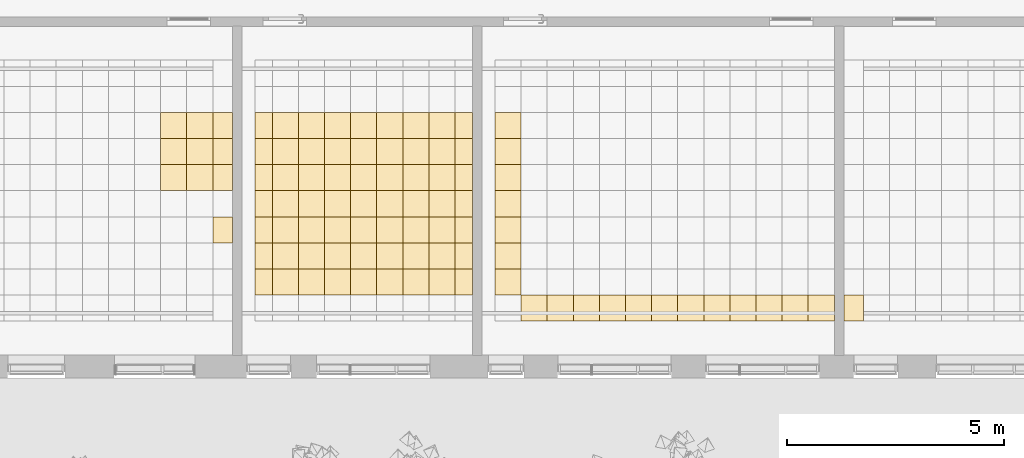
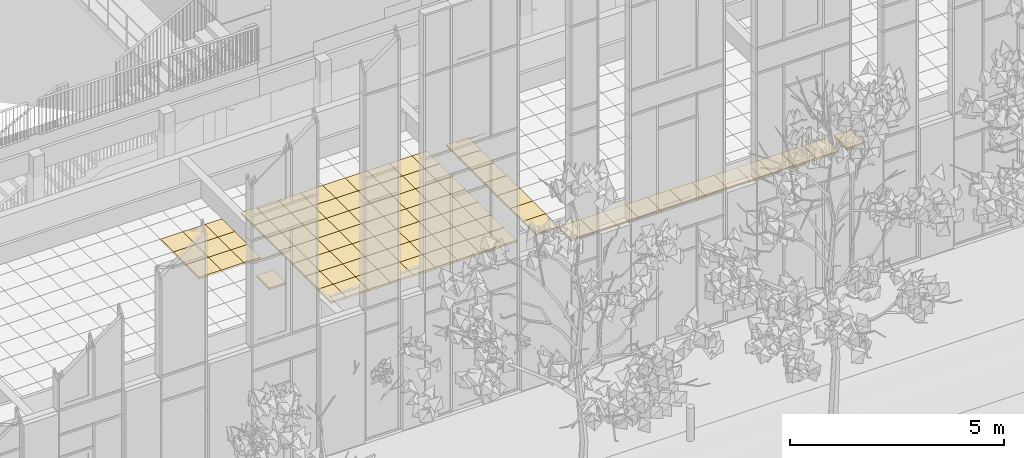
# One storey, part 192 of 246: 93 coverings.
"""IFC2X3 building model written with IfcOpenShell, lengths in millimetres."""

from ifc_helpers import new_model, entity, si_unit, converted_unit, derived_unit, money_unit, direction, frame, origin_with_axes, place, context, subcontext, project, spatial, faceted_brep, material, material_list, type_object, element, save


model = new_model("IFC2X3")

# Units and contexts
model_context = context("Model", 3, precision=0.01, world=origin_with_axes(), true_north=direction((0.0, 1.0)))
body_context = subcontext(model_context, "Body", "Model", "MODEL_VIEW")
ifc_project = project(units=[si_unit("LENGTHUNIT", "METRE", prefix="MILLI"), si_unit("AREAUNIT", "SQUARE_METRE"), si_unit("VOLUMEUNIT", "CUBIC_METRE"), converted_unit("PLANEANGLEUNIT", "DEGREE", entity("IfcPlaneAngleMeasure", 0.0174532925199), si_unit("PLANEANGLEUNIT", "RADIAN"), dimensions=[0, 0, 0, 0, 0, 0, 0]), si_unit("SOLIDANGLEUNIT", "STERADIAN"), money_unit("EUR"), converted_unit("TIMEUNIT", "Year", entity("IfcTimeMeasure", 31556926.0), si_unit("TIMEUNIT", "SECOND"), dimensions=[0, 0, 1, 0, 0, 0, 0]), si_unit("MASSUNIT", "GRAM", prefix="KILO"), si_unit("THERMODYNAMICTEMPERATUREUNIT", "DEGREE_CELSIUS"), si_unit("LUMINOUSINTENSITYUNIT", "LUMEN"), si_unit("ENERGYUNIT", "JOULE", prefix="MEGA"), derived_unit("THERMALCONDUCTANCEUNIT", [(si_unit("POWERUNIT", "WATT"), 1), (si_unit("LENGTHUNIT", "METRE"), -1), (si_unit("THERMODYNAMICTEMPERATUREUNIT", "KELVIN"), -1)]), derived_unit("SPECIFICHEATCAPACITYUNIT", [(si_unit("ENERGYUNIT", "JOULE"), 1), (si_unit("MASSUNIT", "GRAM", prefix="KILO"), -1), (si_unit("THERMODYNAMICTEMPERATUREUNIT", "KELVIN"), -1)]), derived_unit("MASSDENSITYUNIT", [(si_unit("MASSUNIT", "GRAM", prefix="KILO"), 1), (si_unit("VOLUMEUNIT", "CUBIC_METRE"), -1)])], contexts=[model_context])

# Site, building, storey
site_placement = place(None, origin_with_axes())
site = spatial("IfcSite", under=ifc_project, at=site_placement, Name="L.Koidula tn 11b", CompositionType="ELEMENT")
building_placement = place(site_placement, origin_with_axes())
building = spatial("IfcBuilding", under=site, at=building_placement, Name="Rakvere Riigigümnaasium", CompositionType="ELEMENT")
storey_placement = place(building_placement, origin_with_axes())
storey = spatial("IfcBuildingStorey", under=building, at=storey_placement, Name="1.korrus 0,00", CompositionType="ELEMENT", Elevation=0.0)

# Coverings
ifc_material_1 = material(Name="Karkass")
ifc_material_2 = material(Name="Kipsplaat")
ifc_material_list = material_list([ifc_material_1, ifc_material_2])
covering_type = type_object("IfcCoveringType", Name="SA-LV-Kips-moodul 55", PredefinedType="CEILING")
for number, where, z_axis, x_axis, name in (
    (1, (59159.6752046, 10490.4535941, 2750.0), (0.0, 0.0, 1.0), (1.0, 0.0, 0.0), "L-03"),
    (2, (59159.6752046, 9890.45359412, 2750.0), (0.0, 0.0, 1.0), (1.0, 0.0, 0.0), "L-03"),
    (3, (59159.6752046, 9290.45359412, 2750.0), (0.0, 0.0, 1.0), (1.0, 0.0, 0.0), "L-03"),
):
    element("IfcCovering", number, at=place(storey_placement, frame(where, z_axis=z_axis, x_axis=x_axis)), inside=storey, type_object=covering_type, material=ifc_material_list, Name=name, PredefinedType="CEILING", context=body_context, shape_type="Brep", body=[
        faceted_brep([(599.999948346, 0.0, 12.5), (599.999948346, 0.0, 54.5), (0.0, 0.0, 54.5), (0.0, 0.0, 12.5), (599.999948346, 600.0, 12.5), (599.999948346, 600.0, 54.5), (0.0, 600.0, 54.5), (0.0, 600.0, 12.5)], [[[0, 1, 2, 3]], [[4, 5, 1, 0]], [[2, 1, 5, 6]], [[3, 2, 6, 7]], [[3, 7, 4, 0]], [[7, 6, 5, 4]]]),
        faceted_brep([(0.0, 0.0, 0.0), (599.999948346, 0.0, 0.0), (599.999948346, 0.0, 12.5), (0.0, 0.0, 12.5), (0.0, 600.0, 0.0), (599.999948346, 600.0, 0.0), (599.999948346, 600.0, 12.5), (0.0, 600.0, 12.5)], [[[0, 1, 2, 3]], [[0, 4, 5, 1]], [[1, 5, 6, 2]], [[3, 2, 6, 7]], [[4, 0, 3, 7]], [[5, 4, 7, 6]]]),
    ])
for number, where, z_axis, x_axis, name in (
    (4, (60359.6751529, 10490.4535941, 2750.0), (0.0, 0.0, 1.0), (1.0, 0.0, 0.0), "L-03"),
    (5, (60359.6751529, 9890.45359412, 2750.0), (0.0, 0.0, 1.0), (1.0, 0.0, 0.0), "L-03"),
    (6, (60359.6751529, 9290.45359412, 2750.0), (0.0, 0.0, 1.0), (1.0, 0.0, 0.0), "L-03"),
    (7, (60359.6751529, 8090.45359412, 2750.0), (0.0, 0.0, 1.0), (1.0, 0.0, 0.0), "L-03"),
):
    element("IfcCovering", number, at=place(storey_placement, frame(where, z_axis=z_axis, x_axis=x_axis)), inside=storey, type_object=covering_type, material=ifc_material_list, Name=name, PredefinedType="CEILING", context=body_context, shape_type="Brep", body=[
        faceted_brep([(450.341138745, 0.0, 12.5), (450.341138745, 0.0, 54.5), (0.0, 0.0, 54.5), (0.0, 0.0, 12.5), (450.341138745, 600.0, 12.5), (450.341138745, 600.0, 54.5), (0.0, 600.0, 54.5), (0.0, 600.0, 12.5)], [[[0, 1, 2, 3]], [[4, 5, 1, 0]], [[2, 1, 5, 6]], [[3, 2, 6, 7]], [[3, 7, 4, 0]], [[7, 6, 5, 4]]]),
        faceted_brep([(0.0, 0.0, 0.0), (450.341138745, 0.0, 0.0), (450.341138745, 0.0, 12.5), (0.0, 0.0, 12.5), (0.0, 600.0, 0.0), (450.341138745, 600.0, 0.0), (450.341138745, 600.0, 12.5), (0.0, 600.0, 12.5)], [[[0, 1, 2, 3]], [[0, 4, 5, 1]], [[1, 5, 6, 2]], [[3, 2, 6, 7]], [[4, 0, 3, 7]], [[5, 4, 7, 6]]]),
    ])
for number, where, z_axis, x_axis, name in (
    (8, (59759.6751529, 9290.45359412, 2750.0), (0.0, 0.0, 1.0), (1.0, 0.0, 0.0), "L-03"),
    (9, (59759.6751529, 9890.45359412, 2750.0), (0.0, 0.0, 1.0), (1.0, 0.0, 0.0), "L-03"),
    (10, (59759.6751529, 10490.4535941, 2750.0), (0.0, 0.0, 1.0), (1.0, 0.0, 0.0), "L-03"),
):
    element("IfcCovering", number, at=place(storey_placement, frame(where, z_axis=z_axis, x_axis=x_axis)), inside=storey, type_object=covering_type, material=ifc_material_list, Name=name, PredefinedType="CEILING", context=body_context, shape_type="Brep", body=[
        faceted_brep([(600.0, 0.0, 12.5), (600.0, 0.0, 54.5), (0.0, 0.0, 54.5), (0.0, 0.0, 12.5), (600.0, 600.0, 12.5), (600.0, 600.0, 54.5), (0.0, 600.0, 54.5), (0.0, 600.0, 12.5)], [[[0, 1, 2, 3]], [[4, 5, 1, 0]], [[2, 1, 5, 6]], [[3, 2, 6, 7]], [[3, 7, 4, 0]], [[7, 6, 5, 4]]]),
        faceted_brep([(0.0, 0.0, 0.0), (600.0, 0.0, 0.0), (600.0, 0.0, 12.5), (0.0, 0.0, 12.5), (0.0, 600.0, 0.0), (600.0, 600.0, 0.0), (600.0, 600.0, 12.5), (0.0, 600.0, 12.5)], [[[0, 1, 2, 3]], [[0, 4, 5, 1]], [[1, 5, 6, 2]], [[3, 2, 6, 7]], [[4, 0, 3, 7]], [[5, 4, 7, 6]]]),
    ])
for number, where, z_axis, x_axis, name in (
    (11, (61729.718917, 10490.4535941, 2750.0), (0.0, 0.0, 1.0), (1.0, 0.0, 0.0), "L-03"),
    (12, (61729.718917, 9890.45359412, 2750.0), (0.0, 0.0, 1.0), (1.0, 0.0, 0.0), "L-03"),
    (13, (61729.718917, 9290.45359412, 2750.0), (0.0, 0.0, 1.0), (1.0, 0.0, 0.0), "L-03"),
    (14, (61729.718917, 8690.45359412, 2750.0), (0.0, 0.0, 1.0), (1.0, 0.0, 0.0), "L-03"),
    (15, (61729.718917, 8090.45359412, 2750.0), (0.0, 0.0, 1.0), (1.0, 0.0, 0.0), "L-03"),
    (16, (61729.718917, 7490.45359412, 2750.0), (0.0, 0.0, 1.0), (1.0, 0.0, 0.0), "L-03"),
    (17, (61729.718917, 6890.45359412, 2750.0), (0.0, 0.0, 1.0), (1.0, 0.0, 0.0), "L-03"),
):
    element("IfcCovering", number, at=place(storey_placement, frame(where, z_axis=z_axis, x_axis=x_axis)), inside=storey, type_object=covering_type, material=ifc_material_list, Name=name, PredefinedType="CEILING", context=body_context, shape_type="Brep", body=[
        faceted_brep([(599.999948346, 0.0, 12.5), (599.999948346, 0.0, 54.5), (0.0, 0.0, 54.5), (0.0, 0.0, 12.5), (599.999948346, 600.0, 12.5), (599.999948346, 600.0, 54.5), (0.0, 600.0, 54.5), (0.0, 600.0, 12.5)], [[[0, 1, 2, 3]], [[4, 5, 1, 0]], [[2, 1, 5, 6]], [[3, 2, 6, 7]], [[3, 7, 4, 0]], [[7, 6, 5, 4]]]),
        faceted_brep([(0.0, 0.0, 0.0), (599.999948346, 0.0, 0.0), (599.999948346, 0.0, 12.5), (0.0, 0.0, 12.5), (0.0, 600.0, 0.0), (599.999948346, 600.0, 0.0), (599.999948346, 600.0, 12.5), (0.0, 600.0, 12.5)], [[[0, 1, 2, 3]], [[0, 4, 5, 1]], [[1, 5, 6, 2]], [[3, 2, 6, 7]], [[4, 0, 3, 7]], [[5, 4, 7, 6]]]),
    ])
for number, where, z_axis, x_axis, name in (
    (18, (61329.7177494, 7490.45359412, 2750.0), (0.0, 0.0, 1.0), (1.0, 0.0, 0.0), "L-03"),
    (19, (61329.7177494, 8090.45359412, 2750.0), (0.0, 0.0, 1.0), (1.0, 0.0, 0.0), "L-03"),
    (20, (61329.7177494, 8690.45359412, 2750.0), (0.0, 0.0, 1.0), (1.0, 0.0, 0.0), "L-03"),
    (21, (61329.7177494, 9290.45359412, 2750.0), (0.0, 0.0, 1.0), (1.0, 0.0, 0.0), "L-03"),
    (22, (61329.7177494, 9890.45359412, 2750.0), (0.0, 0.0, 1.0), (1.0, 0.0, 0.0), "L-03"),
    (23, (61329.7177494, 10490.4535941, 2750.0), (0.0, 0.0, 1.0), (1.0, 0.0, 0.0), "L-03"),
    (24, (61329.7177494, 6890.45359412, 2750.0), (0.0, 0.0, 1.0), (1.0, 0.0, 0.0), "L-03"),
):
    element("IfcCovering", number, at=place(storey_placement, frame(where, z_axis=z_axis, x_axis=x_axis)), inside=storey, type_object=covering_type, material=ifc_material_list, Name=name, PredefinedType="CEILING", context=body_context, shape_type="Brep", body=[
        faceted_brep([(400.001167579, 0.0, 12.5), (400.001167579, 0.0, 54.5), (0.0, 0.0, 54.5), (0.0, 0.0, 12.5), (400.001167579, 600.0, 12.5), (400.001167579, 600.0, 54.5), (0.0, 600.0, 54.5), (0.0, 600.0, 12.5)], [[[0, 1, 2, 3]], [[4, 5, 1, 0]], [[2, 1, 5, 6]], [[3, 2, 6, 7]], [[3, 7, 4, 0]], [[7, 6, 5, 4]]]),
        faceted_brep([(0.0, 0.0, 0.0), (400.001167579, 0.0, 0.0), (400.001167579, 0.0, 12.5), (0.0, 0.0, 12.5), (0.0, 600.0, 0.0), (400.001167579, 600.0, 0.0), (400.001167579, 600.0, 12.5), (0.0, 600.0, 12.5)], [[[0, 1, 2, 3]], [[0, 4, 5, 1]], [[1, 5, 6, 2]], [[3, 2, 6, 7]], [[4, 0, 3, 7]], [[5, 4, 7, 6]]]),
    ])
for number, where, z_axis, x_axis, name in (
    (25, (62929.7188653, 10490.4535941, 2750.0), (0.0, 0.0, 1.0), (1.0, 0.0, 0.0), "L-03"),
    (26, (62929.7188653, 9890.45359412, 2750.0), (0.0, 0.0, 1.0), (1.0, 0.0, 0.0), "L-03"),
    (27, (62929.7188653, 9290.45359412, 2750.0), (0.0, 0.0, 1.0), (1.0, 0.0, 0.0), "L-03"),
    (28, (62929.7188653, 8690.45359412, 2750.0), (0.0, 0.0, 1.0), (1.0, 0.0, 0.0), "L-03"),
    (29, (62929.7188653, 8090.45359412, 2750.0), (0.0, 0.0, 1.0), (1.0, 0.0, 0.0), "L-03"),
    (30, (62929.7188653, 7490.45359412, 2750.0), (0.0, 0.0, 1.0), (1.0, 0.0, 0.0), "L-03"),
    (31, (62929.7188653, 6890.45359412, 2750.0), (0.0, 0.0, 1.0), (1.0, 0.0, 0.0), "L-03"),
):
    element("IfcCovering", number, at=place(storey_placement, frame(where, z_axis=z_axis, x_axis=x_axis)), inside=storey, type_object=covering_type, material=ifc_material_list, Name=name, PredefinedType="CEILING", context=body_context, shape_type="Brep", body=[
        faceted_brep([(599.999948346, 0.0, 12.5), (599.999948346, 0.0, 54.5), (0.0, 0.0, 54.5), (0.0, 0.0, 12.5), (599.999948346, 600.0, 12.5), (599.999948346, 600.0, 54.5), (0.0, 600.0, 54.5), (0.0, 600.0, 12.5)], [[[0, 1, 2, 3]], [[4, 5, 1, 0]], [[2, 1, 5, 6]], [[3, 2, 6, 7]], [[3, 7, 4, 0]], [[7, 6, 5, 4]]]),
        faceted_brep([(0.0, 0.0, 0.0), (599.999948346, 0.0, 0.0), (599.999948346, 0.0, 12.5), (0.0, 0.0, 12.5), (0.0, 600.0, 0.0), (599.999948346, 600.0, 0.0), (599.999948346, 600.0, 12.5), (0.0, 600.0, 12.5)], [[[0, 1, 2, 3]], [[0, 4, 5, 1]], [[1, 5, 6, 2]], [[3, 2, 6, 7]], [[4, 0, 3, 7]], [[5, 4, 7, 6]]]),
    ])
for number, where, z_axis, x_axis, name in (
    (32, (62329.7188653, 7490.45359412, 2750.0), (0.0, 0.0, 1.0), (1.0, 0.0, 0.0), "L-03"),
    (33, (62329.7188653, 8090.45359412, 2750.0), (0.0, 0.0, 1.0), (1.0, 0.0, 0.0), "L-03"),
    (34, (62329.7188653, 8690.45359412, 2750.0), (0.0, 0.0, 1.0), (1.0, 0.0, 0.0), "L-03"),
    (35, (62329.7188653, 9290.45359412, 2750.0), (0.0, 0.0, 1.0), (1.0, 0.0, 0.0), "L-03"),
    (36, (62329.7188653, 9890.45359412, 2750.0), (0.0, 0.0, 1.0), (1.0, 0.0, 0.0), "L-03"),
    (37, (62329.7188653, 10490.4535941, 2750.0), (0.0, 0.0, 1.0), (1.0, 0.0, 0.0), "L-03"),
    (38, (62329.7188653, 6890.45359412, 2750.0), (0.0, 0.0, 1.0), (1.0, 0.0, 0.0), "L-03"),
):
    element("IfcCovering", number, at=place(storey_placement, frame(where, z_axis=z_axis, x_axis=x_axis)), inside=storey, type_object=covering_type, material=ifc_material_list, Name=name, PredefinedType="CEILING", context=body_context, shape_type="Brep", body=[
        faceted_brep([(600.0, 0.0, 12.5), (600.0, 0.0, 54.5), (0.0, 0.0, 54.5), (0.0, 0.0, 12.5), (600.0, 600.0, 12.5), (600.0, 600.0, 54.5), (0.0, 600.0, 54.5), (0.0, 600.0, 12.5)], [[[0, 1, 2, 3]], [[4, 5, 1, 0]], [[2, 1, 5, 6]], [[3, 2, 6, 7]], [[3, 7, 4, 0]], [[7, 6, 5, 4]]]),
        faceted_brep([(0.0, 0.0, 0.0), (600.0, 0.0, 0.0), (600.0, 0.0, 12.5), (0.0, 0.0, 12.5), (0.0, 600.0, 0.0), (600.0, 600.0, 0.0), (600.0, 600.0, 12.5), (0.0, 600.0, 12.5)], [[[0, 1, 2, 3]], [[0, 4, 5, 1]], [[1, 5, 6, 2]], [[3, 2, 6, 7]], [[4, 0, 3, 7]], [[5, 4, 7, 6]]]),
    ])
for number, where, z_axis, x_axis, name in (
    (39, (64129.7188137, 10490.4535941, 2750.0), (0.0, 0.0, 1.0), (1.0, 0.0, 0.0), "L-03"),
    (40, (64129.7188137, 9890.45359412, 2750.0), (0.0, 0.0, 1.0), (1.0, 0.0, 0.0), "L-03"),
    (41, (64129.7188137, 9290.45359412, 2750.0), (0.0, 0.0, 1.0), (1.0, 0.0, 0.0), "L-03"),
    (42, (64129.7188137, 8690.45359412, 2750.0), (0.0, 0.0, 1.0), (1.0, 0.0, 0.0), "L-03"),
    (43, (64129.7188137, 8090.45359412, 2750.0), (0.0, 0.0, 1.0), (1.0, 0.0, 0.0), "L-03"),
    (44, (64129.7188137, 7490.45359412, 2750.0), (0.0, 0.0, 1.0), (1.0, 0.0, 0.0), "L-03"),
    (45, (64129.7188137, 6890.45359412, 2750.0), (0.0, 0.0, 1.0), (1.0, 0.0, 0.0), "L-03"),
):
    element("IfcCovering", number, at=place(storey_placement, frame(where, z_axis=z_axis, x_axis=x_axis)), inside=storey, type_object=covering_type, material=ifc_material_list, Name=name, PredefinedType="CEILING", context=body_context, shape_type="Brep", body=[
        faceted_brep([(599.999948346, 0.0, 12.5), (599.999948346, 0.0, 54.5), (0.0, 0.0, 54.5), (0.0, 0.0, 12.5), (599.999948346, 600.0, 12.5), (599.999948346, 600.0, 54.5), (0.0, 600.0, 54.5), (0.0, 600.0, 12.5)], [[[0, 1, 2, 3]], [[4, 5, 1, 0]], [[2, 1, 5, 6]], [[3, 2, 6, 7]], [[3, 7, 4, 0]], [[7, 6, 5, 4]]]),
        faceted_brep([(0.0, 0.0, 0.0), (599.999948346, 0.0, 0.0), (599.999948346, 0.0, 12.5), (0.0, 0.0, 12.5), (0.0, 600.0, 0.0), (599.999948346, 600.0, 0.0), (599.999948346, 600.0, 12.5), (0.0, 600.0, 12.5)], [[[0, 1, 2, 3]], [[0, 4, 5, 1]], [[1, 5, 6, 2]], [[3, 2, 6, 7]], [[4, 0, 3, 7]], [[5, 4, 7, 6]]]),
    ])
for number, where, z_axis, x_axis, name in (
    (46, (63529.7188137, 7490.45359412, 2750.0), (0.0, 0.0, 1.0), (1.0, 0.0, 0.0), "L-03"),
    (47, (63529.7188137, 8090.45359412, 2750.0), (0.0, 0.0, 1.0), (1.0, 0.0, 0.0), "L-03"),
    (48, (63529.7188137, 8690.45359412, 2750.0), (0.0, 0.0, 1.0), (1.0, 0.0, 0.0), "L-03"),
    (49, (63529.7188137, 9290.45359412, 2750.0), (0.0, 0.0, 1.0), (1.0, 0.0, 0.0), "L-03"),
    (50, (63529.7188137, 9890.45359412, 2750.0), (0.0, 0.0, 1.0), (1.0, 0.0, 0.0), "L-03"),
    (51, (63529.7188137, 10490.4535941, 2750.0), (0.0, 0.0, 1.0), (1.0, 0.0, 0.0), "L-03"),
    (52, (63529.7188137, 6890.45359412, 2750.0), (0.0, 0.0, 1.0), (1.0, 0.0, 0.0), "L-03"),
):
    element("IfcCovering", number, at=place(storey_placement, frame(where, z_axis=z_axis, x_axis=x_axis)), inside=storey, type_object=covering_type, material=ifc_material_list, Name=name, PredefinedType="CEILING", context=body_context, shape_type="Brep", body=[
        faceted_brep([(600.0, 0.0, 12.5), (600.0, 0.0, 54.5), (0.0, 0.0, 54.5), (0.0, 0.0, 12.5), (600.0, 600.0, 12.5), (600.0, 600.0, 54.5), (0.0, 600.0, 54.5), (0.0, 600.0, 12.5)], [[[0, 1, 2, 3]], [[4, 5, 1, 0]], [[2, 1, 5, 6]], [[3, 2, 6, 7]], [[3, 7, 4, 0]], [[7, 6, 5, 4]]]),
        faceted_brep([(0.0, 0.0, 0.0), (600.0, 0.0, 0.0), (600.0, 0.0, 12.5), (0.0, 0.0, 12.5), (0.0, 600.0, 0.0), (600.0, 600.0, 0.0), (600.0, 600.0, 12.5), (0.0, 600.0, 12.5)], [[[0, 1, 2, 3]], [[0, 4, 5, 1]], [[1, 5, 6, 2]], [[3, 2, 6, 7]], [[4, 0, 3, 7]], [[5, 4, 7, 6]]]),
    ])
for number, where, z_axis, x_axis, name in (
    (53, (65329.718762, 10490.4535941, 2750.0), (0.0, 0.0, 1.0), (1.0, 0.0, 0.0), "L-03"),
    (54, (65329.718762, 9890.45359412, 2750.0), (0.0, 0.0, 1.0), (1.0, 0.0, 0.0), "L-03"),
    (55, (65329.718762, 9290.45359412, 2750.0), (0.0, 0.0, 1.0), (1.0, 0.0, 0.0), "L-03"),
    (56, (65329.718762, 8690.45359412, 2750.0), (0.0, 0.0, 1.0), (1.0, 0.0, 0.0), "L-03"),
    (57, (65329.718762, 8090.45359412, 2750.0), (0.0, 0.0, 1.0), (1.0, 0.0, 0.0), "L-03"),
    (58, (65329.718762, 7490.45359412, 2750.0), (0.0, 0.0, 1.0), (1.0, 0.0, 0.0), "L-03"),
    (59, (65329.718762, 6890.45359412, 2750.0), (0.0, 0.0, 1.0), (1.0, 0.0, 0.0), "L-03"),
):
    element("IfcCovering", number, at=place(storey_placement, frame(where, z_axis=z_axis, x_axis=x_axis)), inside=storey, type_object=covering_type, material=ifc_material_list, Name=name, PredefinedType="CEILING", context=body_context, shape_type="Brep", body=[
        faceted_brep([(599.999948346, 0.0, 12.5), (599.999948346, 0.0, 54.5), (0.0, 0.0, 54.5), (0.0, 0.0, 12.5), (599.999948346, 600.0, 12.5), (599.999948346, 600.0, 54.5), (0.0, 600.0, 54.5), (0.0, 600.0, 12.5)], [[[0, 1, 2, 3]], [[4, 5, 1, 0]], [[2, 1, 5, 6]], [[3, 2, 6, 7]], [[3, 7, 4, 0]], [[7, 6, 5, 4]]]),
        faceted_brep([(0.0, 0.0, 0.0), (599.999948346, 0.0, 0.0), (599.999948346, 0.0, 12.5), (0.0, 0.0, 12.5), (0.0, 600.0, 0.0), (599.999948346, 600.0, 0.0), (599.999948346, 600.0, 12.5), (0.0, 600.0, 12.5)], [[[0, 1, 2, 3]], [[0, 4, 5, 1]], [[1, 5, 6, 2]], [[3, 2, 6, 7]], [[4, 0, 3, 7]], [[5, 4, 7, 6]]]),
    ])
for number, where, z_axis, x_axis, name in (
    (60, (64729.718762, 7490.45359412, 2750.0), (0.0, 0.0, 1.0), (1.0, 0.0, 0.0), "L-03"),
    (61, (64729.718762, 8090.45359412, 2750.0), (0.0, 0.0, 1.0), (1.0, 0.0, 0.0), "L-03"),
    (62, (64729.718762, 8690.45359412, 2750.0), (0.0, 0.0, 1.0), (1.0, 0.0, 0.0), "L-03"),
    (63, (64729.718762, 9290.45359412, 2750.0), (0.0, 0.0, 1.0), (1.0, 0.0, 0.0), "L-03"),
    (64, (64729.718762, 9890.45359412, 2750.0), (0.0, 0.0, 1.0), (1.0, 0.0, 0.0), "L-03"),
    (65, (64729.718762, 10490.4535941, 2750.0), (0.0, 0.0, 1.0), (1.0, 0.0, 0.0), "L-03"),
    (66, (64729.718762, 6890.45359412, 2750.0), (0.0, 0.0, 1.0), (1.0, 0.0, 0.0), "L-03"),
):
    element("IfcCovering", number, at=place(storey_placement, frame(where, z_axis=z_axis, x_axis=x_axis)), inside=storey, type_object=covering_type, material=ifc_material_list, Name=name, PredefinedType="CEILING", context=body_context, shape_type="Brep", body=[
        faceted_brep([(600.0, 0.0, 12.5), (600.0, 0.0, 54.5), (0.0, 0.0, 54.5), (0.0, 0.0, 12.5), (600.0, 600.0, 12.5), (600.0, 600.0, 54.5), (0.0, 600.0, 54.5), (0.0, 600.0, 12.5)], [[[0, 1, 2, 3]], [[4, 5, 1, 0]], [[2, 1, 5, 6]], [[3, 2, 6, 7]], [[3, 7, 4, 0]], [[7, 6, 5, 4]]]),
        faceted_brep([(0.0, 0.0, 0.0), (600.0, 0.0, 0.0), (600.0, 0.0, 12.5), (0.0, 0.0, 12.5), (0.0, 600.0, 0.0), (600.0, 600.0, 0.0), (600.0, 600.0, 12.5), (0.0, 600.0, 12.5)], [[[0, 1, 2, 3]], [[0, 4, 5, 1]], [[1, 5, 6, 2]], [[3, 2, 6, 7]], [[4, 0, 3, 7]], [[5, 4, 7, 6]]]),
    ])
for number, where, z_axis, x_axis, name in (
    (67, (65929.7187104, 7490.45359412, 2750.0), (0.0, 0.0, 1.0), (1.0, 0.0, 0.0), "L-03"),
    (68, (65929.7187104, 8090.45359412, 2750.0), (0.0, 0.0, 1.0), (1.0, 0.0, 0.0), "L-03"),
    (69, (65929.7187104, 8690.45359412, 2750.0), (0.0, 0.0, 1.0), (1.0, 0.0, 0.0), "L-03"),
    (70, (65929.7187104, 9290.45359412, 2750.0), (0.0, 0.0, 1.0), (1.0, 0.0, 0.0), "L-03"),
    (71, (65929.7187104, 9890.45359412, 2750.0), (0.0, 0.0, 1.0), (1.0, 0.0, 0.0), "L-03"),
    (72, (65929.7187104, 10490.4535941, 2750.0), (0.0, 0.0, 1.0), (1.0, 0.0, 0.0), "L-03"),
    (73, (65929.7187104, 6890.45359412, 2750.0), (0.0, 0.0, 1.0), (1.0, 0.0, 0.0), "L-03"),
):
    element("IfcCovering", number, at=place(storey_placement, frame(where, z_axis=z_axis, x_axis=x_axis)), inside=storey, type_object=covering_type, material=ifc_material_list, Name=name, PredefinedType="CEILING", context=body_context, shape_type="Brep", body=[
        faceted_brep([(399.999039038, 0.0, 12.5), (399.999039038, 0.0, 54.5), (0.0, 0.0, 54.5), (0.0, 0.0, 12.5), (399.999039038, 600.0, 12.5), (399.999039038, 600.0, 54.5), (0.0, 600.0, 54.5), (0.0, 600.0, 12.5)], [[[0, 1, 2, 3]], [[4, 5, 1, 0]], [[2, 1, 5, 6]], [[3, 2, 6, 7]], [[3, 7, 4, 0]], [[7, 6, 5, 4]]]),
        faceted_brep([(0.0, 0.0, 0.0), (399.999039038, 0.0, 0.0), (399.999039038, 0.0, 12.5), (0.0, 0.0, 12.5), (0.0, 600.0, 0.0), (399.999039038, 600.0, 0.0), (399.999039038, 600.0, 12.5), (0.0, 600.0, 12.5)], [[[0, 1, 2, 3]], [[0, 4, 5, 1]], [[1, 5, 6, 2]], [[3, 2, 6, 7]], [[4, 0, 3, 7]], [[5, 4, 7, 6]]]),
    ])
covering_1_placement = place(storey_placement, frame((74870.0163848, 6290.45359412, 2750.0), z_axis=(0.0, 0.0, 1.0), x_axis=(1.0, 0.0, 0.0)))
element("IfcCovering", 74, at=covering_1_placement, inside=storey, type_object=covering_type, material=ifc_material_list, Name="L-03", PredefinedType="CEILING", context=body_context, shape_type="Brep", body=[
    faceted_brep([(449.698824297, 0.0, 12.5), (449.698824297, 0.0, 54.5), (0.0, 0.0, 54.5), (0.0, 0.0, 12.5), (449.698824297, 600.0, 12.5), (449.698824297, 600.0, 54.5), (0.0, 600.0, 54.5), (0.0, 600.0, 12.5)], [[[0, 1, 2, 3]], [[4, 5, 1, 0]], [[2, 1, 5, 6]], [[3, 2, 6, 7]], [[3, 7, 4, 0]], [[7, 6, 5, 4]]]),
    faceted_brep([(0.0, 0.0, 0.0), (449.698824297, 0.0, 0.0), (449.698824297, 0.0, 12.5), (0.0, 0.0, 12.5), (0.0, 600.0, 0.0), (449.698824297, 600.0, 0.0), (449.698824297, 600.0, 12.5), (0.0, 600.0, 12.5)], [[[0, 1, 2, 3]], [[0, 4, 5, 1]], [[1, 5, 6, 2]], [[3, 2, 6, 7]], [[4, 0, 3, 7]], [[5, 4, 7, 6]]]),
])
covering_2_placement = place(storey_placement, frame((67449.7153767, 6290.45359412, 2750.0), z_axis=(0.0, 0.0, 1.0), x_axis=(1.0, 0.0, 0.0)))
element("IfcCovering", 75, at=covering_2_placement, inside=storey, type_object=covering_type, material=ifc_material_list, Name="L-03", PredefinedType="CEILING", context=body_context, shape_type="Brep", body=[
    faceted_brep([(599.999948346, 0.0, 12.5), (599.999948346, 0.0, 54.5), (0.0, 0.0, 54.5), (0.0, 0.0, 12.5), (599.999948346, 600.0, 12.5), (599.999948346, 600.0, 54.5), (0.0, 600.0, 54.5), (0.0, 600.0, 12.5)], [[[0, 1, 2, 3]], [[4, 5, 1, 0]], [[2, 1, 5, 6]], [[3, 2, 6, 7]], [[3, 7, 4, 0]], [[7, 6, 5, 4]]]),
    faceted_brep([(0.0, 0.0, 0.0), (599.999948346, 0.0, 0.0), (599.999948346, 0.0, 12.5), (0.0, 0.0, 12.5), (0.0, 600.0, 0.0), (599.999948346, 600.0, 0.0), (599.999948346, 600.0, 12.5), (0.0, 600.0, 12.5)], [[[0, 1, 2, 3]], [[0, 4, 5, 1]], [[1, 5, 6, 2]], [[3, 2, 6, 7]], [[4, 0, 3, 7]], [[5, 4, 7, 6]]]),
])
for number, where, z_axis, x_axis, name in (
    (76, (66849.7149246, 7490.45359412, 2750.0), (0.0, 0.0, 1.0), (1.0, 0.0, 0.0), "L-03"),
    (77, (66849.7149246, 8090.45359412, 2750.0), (0.0, 0.0, 1.0), (1.0, 0.0, 0.0), "L-03"),
    (78, (66849.7149246, 8690.45359412, 2750.0), (0.0, 0.0, 1.0), (1.0, 0.0, 0.0), "L-03"),
    (79, (66849.7149246, 9290.45359412, 2750.0), (0.0, 0.0, 1.0), (1.0, 0.0, 0.0), "L-03"),
    (80, (66849.7149246, 9890.45359412, 2750.0), (0.0, 0.0, 1.0), (1.0, 0.0, 0.0), "L-03"),
    (81, (66849.7149246, 10490.4535941, 2750.0), (0.0, 0.0, 1.0), (1.0, 0.0, 0.0), "L-03"),
    (82, (66849.7149246, 6890.45359412, 2750.0), (0.0, 0.0, 1.0), (1.0, 0.0, 0.0), "L-03"),
):
    element("IfcCovering", number, at=place(storey_placement, frame(where, z_axis=z_axis, x_axis=x_axis)), inside=storey, type_object=covering_type, material=ifc_material_list, Name=name, PredefinedType="CEILING", context=body_context, shape_type="Brep", body=[
        faceted_brep([(600.000452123, 0.0, 12.5), (600.000452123, 0.0, 54.5), (0.0, 0.0, 54.5), (0.0, 0.0, 12.5), (600.000452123, 600.0, 12.5), (600.000452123, 600.0, 54.5), (0.0, 600.0, 54.5), (0.0, 600.0, 12.5)], [[[0, 1, 2, 3]], [[4, 5, 1, 0]], [[2, 1, 5, 6]], [[3, 2, 6, 7]], [[3, 7, 4, 0]], [[7, 6, 5, 4]]]),
        faceted_brep([(0.0, 0.0, 0.0), (600.000452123, 0.0, 0.0), (600.000452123, 0.0, 12.5), (0.0, 0.0, 12.5), (0.0, 600.0, 0.0), (600.000452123, 600.0, 0.0), (600.000452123, 600.0, 12.5), (0.0, 600.0, 12.5)], [[[0, 1, 2, 3]], [[0, 4, 5, 1]], [[1, 5, 6, 2]], [[3, 2, 6, 7]], [[4, 0, 3, 7]], [[5, 4, 7, 6]]]),
    ])
covering_3_placement = place(storey_placement, frame((68649.715325, 6290.45359412, 2750.0), z_axis=(0.0, 0.0, 1.0), x_axis=(1.0, 0.0, 0.0)))
element("IfcCovering", 83, at=covering_3_placement, inside=storey, type_object=covering_type, material=ifc_material_list, Name="L-03", PredefinedType="CEILING", context=body_context, shape_type="Brep", body=[
    faceted_brep([(599.999948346, 0.0, 12.5), (599.999948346, 0.0, 54.5), (0.0, 0.0, 54.5), (0.0, 0.0, 12.5), (599.999948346, 600.0, 12.5), (599.999948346, 600.0, 54.5), (0.0, 600.0, 54.5), (0.0, 600.0, 12.5)], [[[0, 1, 2, 3]], [[4, 5, 1, 0]], [[2, 1, 5, 6]], [[3, 2, 6, 7]], [[3, 7, 4, 0]], [[7, 6, 5, 4]]]),
    faceted_brep([(0.0, 0.0, 0.0), (599.999948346, 0.0, 0.0), (599.999948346, 0.0, 12.5), (0.0, 0.0, 12.5), (0.0, 600.0, 0.0), (599.999948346, 600.0, 0.0), (599.999948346, 600.0, 12.5), (0.0, 600.0, 12.5)], [[[0, 1, 2, 3]], [[0, 4, 5, 1]], [[1, 5, 6, 2]], [[3, 2, 6, 7]], [[4, 0, 3, 7]], [[5, 4, 7, 6]]]),
])
covering_4_placement = place(storey_placement, frame((68049.715325, 6290.45359412, 2750.0), z_axis=(0.0, 0.0, 1.0), x_axis=(1.0, 0.0, 0.0)))
element("IfcCovering", 84, at=covering_4_placement, inside=storey, type_object=covering_type, material=ifc_material_list, Name="L-03", PredefinedType="CEILING", context=body_context, shape_type="Brep", body=[
    faceted_brep([(600.0, 0.0, 12.5), (600.0, 0.0, 54.5), (0.0, 0.0, 54.5), (0.0, 0.0, 12.5), (600.0, 600.0, 12.5), (600.0, 600.0, 54.5), (0.0, 600.0, 54.5), (0.0, 600.0, 12.5)], [[[0, 1, 2, 3]], [[4, 5, 1, 0]], [[2, 1, 5, 6]], [[3, 2, 6, 7]], [[3, 7, 4, 0]], [[7, 6, 5, 4]]]),
    faceted_brep([(0.0, 0.0, 0.0), (600.0, 0.0, 0.0), (600.0, 0.0, 12.5), (0.0, 0.0, 12.5), (0.0, 600.0, 0.0), (600.0, 600.0, 0.0), (600.0, 600.0, 12.5), (0.0, 600.0, 12.5)], [[[0, 1, 2, 3]], [[0, 4, 5, 1]], [[1, 5, 6, 2]], [[3, 2, 6, 7]], [[4, 0, 3, 7]], [[5, 4, 7, 6]]]),
])
covering_5_placement = place(storey_placement, frame((69849.7152734, 6290.45359412, 2750.0), z_axis=(0.0, 0.0, 1.0), x_axis=(1.0, 0.0, 0.0)))
element("IfcCovering", 85, at=covering_5_placement, inside=storey, type_object=covering_type, material=ifc_material_list, Name="L-03", PredefinedType="CEILING", context=body_context, shape_type="Brep", body=[
    faceted_brep([(599.999948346, 0.0, 12.5), (599.999948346, 0.0, 54.5), (0.0, 0.0, 54.5), (0.0, 0.0, 12.5), (599.999948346, 600.0, 12.5), (599.999948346, 600.0, 54.5), (0.0, 600.0, 54.5), (0.0, 600.0, 12.5)], [[[0, 1, 2, 3]], [[4, 5, 1, 0]], [[2, 1, 5, 6]], [[3, 2, 6, 7]], [[3, 7, 4, 0]], [[7, 6, 5, 4]]]),
    faceted_brep([(0.0, 0.0, 0.0), (599.999948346, 0.0, 0.0), (599.999948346, 0.0, 12.5), (0.0, 0.0, 12.5), (0.0, 600.0, 0.0), (599.999948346, 600.0, 0.0), (599.999948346, 600.0, 12.5), (0.0, 600.0, 12.5)], [[[0, 1, 2, 3]], [[0, 4, 5, 1]], [[1, 5, 6, 2]], [[3, 2, 6, 7]], [[4, 0, 3, 7]], [[5, 4, 7, 6]]]),
])
covering_6_placement = place(storey_placement, frame((69249.7152734, 6290.45359412, 2750.0), z_axis=(0.0, 0.0, 1.0), x_axis=(1.0, 0.0, 0.0)))
element("IfcCovering", 86, at=covering_6_placement, inside=storey, type_object=covering_type, material=ifc_material_list, Name="L-03", PredefinedType="CEILING", context=body_context, shape_type="Brep", body=[
    faceted_brep([(600.0, 0.0, 12.5), (600.0, 0.0, 54.5), (0.0, 0.0, 54.5), (0.0, 0.0, 12.5), (600.0, 600.0, 12.5), (600.0, 600.0, 54.5), (0.0, 600.0, 54.5), (0.0, 600.0, 12.5)], [[[0, 1, 2, 3]], [[4, 5, 1, 0]], [[2, 1, 5, 6]], [[3, 2, 6, 7]], [[3, 7, 4, 0]], [[7, 6, 5, 4]]]),
    faceted_brep([(0.0, 0.0, 0.0), (600.0, 0.0, 0.0), (600.0, 0.0, 12.5), (0.0, 0.0, 12.5), (0.0, 600.0, 0.0), (600.0, 600.0, 0.0), (600.0, 600.0, 12.5), (0.0, 600.0, 12.5)], [[[0, 1, 2, 3]], [[0, 4, 5, 1]], [[1, 5, 6, 2]], [[3, 2, 6, 7]], [[4, 0, 3, 7]], [[5, 4, 7, 6]]]),
])
covering_7_placement = place(storey_placement, frame((71049.7152217, 6290.45359412, 2750.0), z_axis=(0.0, 0.0, 1.0), x_axis=(1.0, 0.0, 0.0)))
element("IfcCovering", 87, at=covering_7_placement, inside=storey, type_object=covering_type, material=ifc_material_list, Name="L-03", PredefinedType="CEILING", context=body_context, shape_type="Brep", body=[
    faceted_brep([(599.999948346, 0.0, 12.5), (599.999948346, 0.0, 54.5), (0.0, 0.0, 54.5), (0.0, 0.0, 12.5), (599.999948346, 600.0, 12.5), (599.999948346, 600.0, 54.5), (0.0, 600.0, 54.5), (0.0, 600.0, 12.5)], [[[0, 1, 2, 3]], [[4, 5, 1, 0]], [[2, 1, 5, 6]], [[3, 2, 6, 7]], [[3, 7, 4, 0]], [[7, 6, 5, 4]]]),
    faceted_brep([(0.0, 0.0, 0.0), (599.999948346, 0.0, 0.0), (599.999948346, 0.0, 12.5), (0.0, 0.0, 12.5), (0.0, 600.0, 0.0), (599.999948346, 600.0, 0.0), (599.999948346, 600.0, 12.5), (0.0, 600.0, 12.5)], [[[0, 1, 2, 3]], [[0, 4, 5, 1]], [[1, 5, 6, 2]], [[3, 2, 6, 7]], [[4, 0, 3, 7]], [[5, 4, 7, 6]]]),
])
covering_8_placement = place(storey_placement, frame((70449.7152217, 6290.45359412, 2750.0), z_axis=(0.0, 0.0, 1.0), x_axis=(1.0, 0.0, 0.0)))
element("IfcCovering", 88, at=covering_8_placement, inside=storey, type_object=covering_type, material=ifc_material_list, Name="L-03", PredefinedType="CEILING", context=body_context, shape_type="Brep", body=[
    faceted_brep([(600.0, 0.0, 12.5), (600.0, 0.0, 54.5), (0.0, 0.0, 54.5), (0.0, 0.0, 12.5), (600.0, 600.0, 12.5), (600.0, 600.0, 54.5), (0.0, 600.0, 54.5), (0.0, 600.0, 12.5)], [[[0, 1, 2, 3]], [[4, 5, 1, 0]], [[2, 1, 5, 6]], [[3, 2, 6, 7]], [[3, 7, 4, 0]], [[7, 6, 5, 4]]]),
    faceted_brep([(0.0, 0.0, 0.0), (600.0, 0.0, 0.0), (600.0, 0.0, 12.5), (0.0, 0.0, 12.5), (0.0, 600.0, 0.0), (600.0, 600.0, 0.0), (600.0, 600.0, 12.5), (0.0, 600.0, 12.5)], [[[0, 1, 2, 3]], [[0, 4, 5, 1]], [[1, 5, 6, 2]], [[3, 2, 6, 7]], [[4, 0, 3, 7]], [[5, 4, 7, 6]]]),
])
covering_9_placement = place(storey_placement, frame((72249.7151701, 6290.45359412, 2750.0), z_axis=(0.0, 0.0, 1.0), x_axis=(1.0, 0.0, 0.0)))
element("IfcCovering", 89, at=covering_9_placement, inside=storey, type_object=covering_type, material=ifc_material_list, Name="L-03", PredefinedType="CEILING", context=body_context, shape_type="Brep", body=[
    faceted_brep([(599.999948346, 0.0, 12.5), (599.999948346, 0.0, 54.5), (0.0, 0.0, 54.5), (0.0, 0.0, 12.5), (599.999948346, 600.0, 12.5), (599.999948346, 600.0, 54.5), (0.0, 600.0, 54.5), (0.0, 600.0, 12.5)], [[[0, 1, 2, 3]], [[4, 5, 1, 0]], [[2, 1, 5, 6]], [[3, 2, 6, 7]], [[3, 7, 4, 0]], [[7, 6, 5, 4]]]),
    faceted_brep([(0.0, 0.0, 0.0), (599.999948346, 0.0, 0.0), (599.999948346, 0.0, 12.5), (0.0, 0.0, 12.5), (0.0, 600.0, 0.0), (599.999948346, 600.0, 0.0), (599.999948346, 600.0, 12.5), (0.0, 600.0, 12.5)], [[[0, 1, 2, 3]], [[0, 4, 5, 1]], [[1, 5, 6, 2]], [[3, 2, 6, 7]], [[4, 0, 3, 7]], [[5, 4, 7, 6]]]),
])
covering_10_placement = place(storey_placement, frame((71649.7151701, 6290.45359412, 2750.0), z_axis=(0.0, 0.0, 1.0), x_axis=(1.0, 0.0, 0.0)))
element("IfcCovering", 90, at=covering_10_placement, inside=storey, type_object=covering_type, material=ifc_material_list, Name="L-03", PredefinedType="CEILING", context=body_context, shape_type="Brep", body=[
    faceted_brep([(600.0, 0.0, 12.5), (600.0, 0.0, 54.5), (0.0, 0.0, 54.5), (0.0, 0.0, 12.5), (600.0, 600.0, 12.5), (600.0, 600.0, 54.5), (0.0, 600.0, 54.5), (0.0, 600.0, 12.5)], [[[0, 1, 2, 3]], [[4, 5, 1, 0]], [[2, 1, 5, 6]], [[3, 2, 6, 7]], [[3, 7, 4, 0]], [[7, 6, 5, 4]]]),
    faceted_brep([(0.0, 0.0, 0.0), (600.0, 0.0, 0.0), (600.0, 0.0, 12.5), (0.0, 0.0, 12.5), (0.0, 600.0, 0.0), (600.0, 600.0, 0.0), (600.0, 600.0, 12.5), (0.0, 600.0, 12.5)], [[[0, 1, 2, 3]], [[0, 4, 5, 1]], [[1, 5, 6, 2]], [[3, 2, 6, 7]], [[4, 0, 3, 7]], [[5, 4, 7, 6]]]),
])
covering_11_placement = place(storey_placement, frame((73449.7151184, 6290.45359412, 2750.0), z_axis=(0.0, 0.0, 1.0), x_axis=(1.0, 0.0, 0.0)))
element("IfcCovering", 91, at=covering_11_placement, inside=storey, type_object=covering_type, material=ifc_material_list, Name="L-03", PredefinedType="CEILING", context=body_context, shape_type="Brep", body=[
    faceted_brep([(599.999948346, 0.0, 12.5), (599.999948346, 0.0, 54.5), (0.0, 0.0, 54.5), (0.0, 0.0, 12.5), (599.999948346, 600.0, 12.5), (599.999948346, 600.0, 54.5), (0.0, 600.0, 54.5), (0.0, 600.0, 12.5)], [[[0, 1, 2, 3]], [[4, 5, 1, 0]], [[2, 1, 5, 6]], [[3, 2, 6, 7]], [[3, 7, 4, 0]], [[7, 6, 5, 4]]]),
    faceted_brep([(0.0, 0.0, 0.0), (599.999948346, 0.0, 0.0), (599.999948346, 0.0, 12.5), (0.0, 0.0, 12.5), (0.0, 600.0, 0.0), (599.999948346, 600.0, 0.0), (599.999948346, 600.0, 12.5), (0.0, 600.0, 12.5)], [[[0, 1, 2, 3]], [[0, 4, 5, 1]], [[1, 5, 6, 2]], [[3, 2, 6, 7]], [[4, 0, 3, 7]], [[5, 4, 7, 6]]]),
])
for number, where, z_axis, x_axis, name in (
    (92, (72849.7151184, 6290.45359412, 2750.0), (0.0, 0.0, 1.0), (1.0, 0.0, 0.0), "L-03"),
    (93, (74049.7150668, 6290.45359412, 2750.0), (0.0, 0.0, 1.0), (1.0, 0.0, 0.0), "L-03"),
):
    element("IfcCovering", number, at=place(storey_placement, frame(where, z_axis=z_axis, x_axis=x_axis)), inside=storey, type_object=covering_type, material=ifc_material_list, Name=name, PredefinedType="CEILING", context=body_context, shape_type="Brep", body=[
        faceted_brep([(600.0, 0.0, 12.5), (600.0, 0.0, 54.5), (0.0, 0.0, 54.5), (0.0, 0.0, 12.5), (600.0, 600.0, 12.5), (600.0, 600.0, 54.5), (0.0, 600.0, 54.5), (0.0, 600.0, 12.5)], [[[0, 1, 2, 3]], [[4, 5, 1, 0]], [[2, 1, 5, 6]], [[3, 2, 6, 7]], [[3, 7, 4, 0]], [[7, 6, 5, 4]]]),
        faceted_brep([(0.0, 0.0, 0.0), (600.0, 0.0, 0.0), (600.0, 0.0, 12.5), (0.0, 0.0, 12.5), (0.0, 600.0, 0.0), (600.0, 600.0, 0.0), (600.0, 600.0, 12.5), (0.0, 600.0, 12.5)], [[[0, 1, 2, 3]], [[0, 4, 5, 1]], [[1, 5, 6, 2]], [[3, 2, 6, 7]], [[4, 0, 3, 7]], [[5, 4, 7, 6]]]),
    ])

save(model, "model.ifc")
